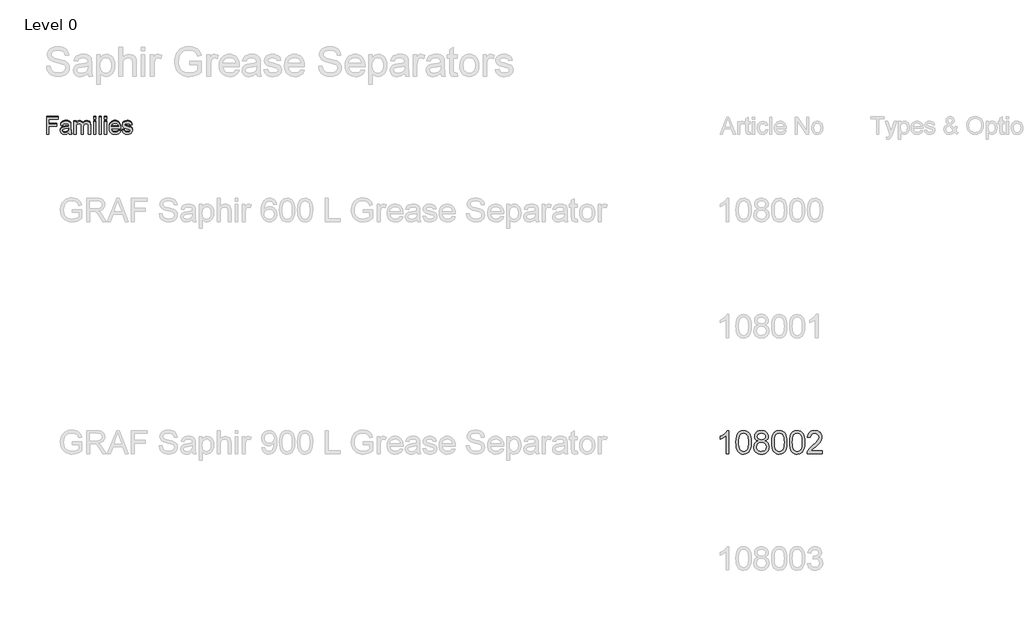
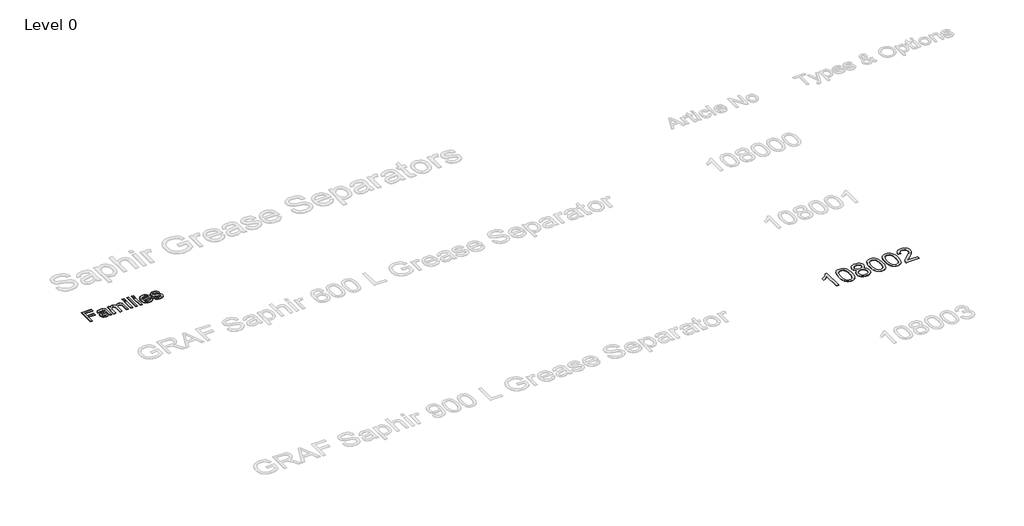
# One storey, part 4 of 15: 3 proxies.
"""IFC4 building model written with IfcOpenShell, lengths in millimetres."""

from ifc_helpers import new_model, si_unit, origin, origin_with_axes, place, context, project, spatial, polyline, outline, extrude, element, save

model = new_model("IFC4")

# Units and contexts
model_context = context("Model", 3, world=origin())
ifc_project = project(units=[si_unit("LENGTHUNIT", "METRE", prefix="MILLI")], contexts=[model_context])

# Site, building, storey
site = spatial("IfcSite", under=ifc_project)
building = spatial("IfcBuilding", under=site)
storey = spatial("IfcBuildingStorey", under=building, Name="Level 0", Elevation=0.0)

# Proxies
placement = place(None, origin())
element("IfcBuildingElementProxy", 1, Name="300mm Arial", ObjectType="300mm Arial", at=placement, inside=storey, context=model_context, shape_type="SweptSolid", body=[
    extrude(outline(polyline([(-15382.9152593, 11653.8274553), (-15382.9152593, 11949.2120707), (-15184.4537209, 11949.2120707), (-15184.4537209, 11912.2889938), (-15345.9921824, 11912.2889938), (-15345.9921824, 11824.5966861), (-15207.530644, 11824.5966861), (-15207.530644, 11787.6736092), (-15345.9921824, 11787.6736092), (-15345.9921824, 11653.8274553), (-15382.9152593, 11653.8274553)])), origin_with_axes(), (0.0, 0.0, 1.0), 10.0),
    extrude(outline(polyline([(-14999.8383363, 11681.519763), (-15017.4795622, 11666.3935611), (-15035.6436247, 11656.4957246), (-15054.7451872, 11651.0329842), (-15075.1989132, 11649.2120707), (-15106.0552834, 11653.5930803), (-15128.8167017, 11666.7361092), (-15142.8521584, 11686.6940419), (-15147.530644, 11711.519763), (-15145.763817, 11726.8262534), (-15140.4633363, 11740.7264938), (-15132.2872545, 11752.6255323), (-15121.8936247, 11761.9284169), (-15096.0402593, 11774.0438015), (-15064.093144, 11779.5966861), (-15026.3407401, 11785.4380323), (-15000.0546824, 11792.2889938), (-14999.8383363, 11800.5101476), (-15002.3804036, 11816.988513), (-15010.0066055, 11827.769763), (-15027.061894, 11835.7745707), (-15050.8239132, 11838.44284), (-15072.8191055, 11836.6669986), (-15088.1796824, 11831.3394746), (-15098.654442, 11821.4867101), (-15105.9921824, 11806.1351476), (-15142.9152593, 11810.7505323), (-15136.5060045, 11830.94284), (-15126.9417017, 11846.8082246), (-15113.3299228, 11858.941638), (-15094.7782401, 11867.9380323), (-15072.0889372, 11873.5089457), (-15046.0642978, 11875.3659169), (-15021.1033603, 11873.7252919), (-15001.3167017, 11868.8034169), (-14986.3978315, 11861.4025755), (-14976.0402593, 11852.3250515), (-14969.171269, 11841.1020948), (-14964.718144, 11827.2649553), (-14962.9152593, 11794.957263), (-14962.9152593, 11749.019763), (-14961.0402593, 11684.8731284), (-14953.6844901, 11653.8274553), (-14990.607567, 11653.8274553), (-14999.8383363, 11681.519763)]), holes=[polyline([(-14999.8383363, 11755.3659169), (-15059.405644, 11744.0438015), (-15091.1724709, 11738.0582246), (-15105.5594901, 11728.3226476), (-15110.607567, 11714.1159169), (-15107.858168, 11703.1363496), (-15099.6099709, 11694.1399553), (-15086.0432642, 11688.1363496), (-15067.3383363, 11686.1351476), (-15047.5066055, 11688.3436813), (-15029.982567, 11694.9692823), (-15015.7758363, 11704.7319025), (-15005.8960286, 11716.3514938), (-15001.515019, 11728.3226476), (-15000.0546824, 11744.9091861), (-14999.8383363, 11755.3659169)])]), origin_with_axes(), (0.0, 0.0, 1.0), 10.0),
    extrude(outline(polyline([(-14912.1460286, 11653.8274553), (-14912.1460286, 11870.7505323), (-14875.2229517, 11870.7505323), (-14875.2229517, 11835.0534169), (-14864.1171824, 11851.4506525), (-14849.8383363, 11864.2962053), (-14832.873192, 11872.598489), (-14813.7085286, 11875.3659169), (-14793.1736728, 11872.5444025), (-14776.7133363, 11864.0798592), (-14764.4176632, 11850.5311813), (-14756.3767978, 11832.457263), (-14742.9182642, 11851.2297991), (-14727.5667017, 11864.6387534), (-14710.3221103, 11872.684126), (-14691.1844901, 11875.3659169), (-14663.4290815, 11870.9037775), (-14642.9032401, 11857.5173592), (-14630.2199468, 11834.8460851), (-14625.9921824, 11802.5293784), (-14625.9921824, 11653.8274553), (-14662.9152593, 11653.8274553), (-14662.9152593, 11786.6639938), (-14666.3407401, 11817.4933207), (-14671.154442, 11825.9939217), (-14678.7445863, 11832.6736092), (-14688.5072065, 11837.0005323), (-14699.8383363, 11838.44284), (-14719.8413411, 11834.7469265), (-14736.1484324, 11823.6591861), (-14746.9927834, 11804.4224073), (-14750.607567, 11776.2793784), (-14750.607567, 11653.8274553), (-14787.530644, 11653.8274553), (-14787.530644, 11790.7745707), (-14789.6670622, 11811.6519746), (-14796.076317, 11826.5438015), (-14807.3533603, 11835.4680803), (-14824.093144, 11838.44284), (-14838.3179036, 11836.4596669), (-14851.4248747, 11830.5101476), (-14862.2421824, 11820.738513), (-14869.5979517, 11807.2889938), (-14873.8167017, 11788.629138), (-14875.2229517, 11763.2264938), (-14875.2229517, 11653.8274553), (-14912.1460286, 11653.8274553)])), origin_with_axes(), (0.0, 0.0, 1.0), 10.0),
    extrude(outline(polyline([(-14570.607567, 11912.2889938), (-14570.607567, 11949.2120707), (-14533.6844901, 11949.2120707), (-14533.6844901, 11912.2889938), (-14570.607567, 11912.2889938)])), origin_with_axes(), (0.0, 0.0, 1.0), 10.0),
    extrude(outline(polyline([(-14570.607567, 11653.8274553), (-14570.607567, 11870.7505323), (-14533.6844901, 11870.7505323), (-14533.6844901, 11653.8274553), (-14570.607567, 11653.8274553)])), origin_with_axes(), (0.0, 0.0, 1.0), 10.0),
    extrude(outline(polyline([(-14478.2998747, 11653.8274553), (-14478.2998747, 11949.2120707), (-14441.3767978, 11949.2120707), (-14441.3767978, 11653.8274553), (-14478.2998747, 11653.8274553)])), origin_with_axes(), (0.0, 0.0, 1.0), 10.0),
    extrude(outline(polyline([(-14385.9921824, 11912.2889938), (-14385.9921824, 11949.2120707), (-14349.0691055, 11949.2120707), (-14349.0691055, 11912.2889938), (-14385.9921824, 11912.2889938)])), origin_with_axes(), (0.0, 0.0, 1.0), 10.0),
    extrude(outline(polyline([(-14385.9921824, 11653.8274553), (-14385.9921824, 11870.7505323), (-14349.0691055, 11870.7505323), (-14349.0691055, 11653.8274553), (-14385.9921824, 11653.8274553)])), origin_with_axes(), (0.0, 0.0, 1.0), 10.0),
    extrude(outline(polyline([(-14141.8094901, 11718.44284), (-14105.607567, 11713.8274553), (-14118.6514372, 11686.5498111), (-14139.4657401, 11666.1591861), (-14167.5817257, 11653.4488496), (-14202.530644, 11649.2120707), (-14225.4408002, 11651.039745), (-14245.8539613, 11656.5227678), (-14263.7701271, 11665.6611392), (-14279.1892978, 11678.4548592), (-14291.5886367, 11694.547858), (-14300.4453074, 11713.5840659), (-14305.7593098, 11735.563483), (-14307.530644, 11760.4861092), (-14305.741281, 11786.2538375), (-14300.373192, 11808.9656765), (-14291.4263771, 11828.621626), (-14278.9008363, 11845.2216861), (-14263.5222305, 11858.4097871), (-14246.0162209, 11867.8298592), (-14226.3828074, 11873.4819025), (-14204.6219901, 11875.3659169), (-14183.5620442, 11873.4864097), (-14164.5168218, 11867.847888), (-14147.486323, 11858.450352), (-14132.4705478, 11845.2938015), (-14120.213186, 11828.7297991), (-14111.4579276, 11809.1099073), (-14106.2047726, 11786.434126), (-14104.4537209, 11760.7024553), (-14104.670067, 11750.7505323), (-14270.607567, 11750.7505323), (-14264.2163411, 11723.1123111), (-14249.3695863, 11702.7938015), (-14227.9423026, 11690.2998111), (-14201.8094901, 11686.1351476), (-14182.1580478, 11688.0642342), (-14165.607567, 11693.8514938), (-14152.1580478, 11703.8575034), (-14141.8094901, 11718.44284)]), holes=[polyline([(-14270.607567, 11787.6736092), (-14141.3767978, 11787.6736092), (-14146.3707882, 11807.1808207), (-14156.1604517, 11821.1351476), (-14177.686894, 11834.1159169), (-14204.7662209, 11838.44284), (-14229.655043, 11834.9903159), (-14250.2349709, 11824.6327438), (-14264.5408603, 11808.4879121), (-14270.607567, 11787.6736092)])]), origin_with_axes(), (0.0, 0.0, 1.0), 10.0),
    extrude(outline(polyline([(-14081.3767978, 11718.44284), (-14044.4537209, 11723.0582246), (-14038.6304036, 11707.2649553), (-14027.3623747, 11695.6543784), (-14010.577519, 11688.5149553), (-13988.2037209, 11686.1351476), (-13966.1003555, 11688.316638), (-13950.5594901, 11694.8611092), (-13941.3647786, 11704.3442823), (-13938.2998747, 11715.3418784), (-13941.3828074, 11724.7529361), (-13950.6316055, 11731.9284169), (-13988.6364132, 11742.457263), (-14044.2373747, 11760.5221669), (-14058.3088892, 11769.5996909), (-14068.5042017, 11781.6159169), (-14074.6971103, 11795.8046188), (-14076.7614132, 11811.3995707), (-14075.1027593, 11825.7054601), (-14070.1267978, 11838.91159), (-14062.2842497, 11850.4951236), (-14052.0258363, 11859.9332246), (-14028.5522786, 11870.8587053), (-13996.7854517, 11875.3659169), (-13972.7529997, 11873.5540178), (-13951.857567, 11868.1183207), (-13935.0546824, 11859.5906765), (-13923.2998747, 11848.5029361), (-13915.5114132, 11834.0347871), (-13910.607567, 11815.3659169), (-13947.530644, 11810.7505323), (-13952.1911007, 11822.3701236), (-13961.4128555, 11831.1231284), (-13975.2860526, 11836.6129121), (-13993.9008363, 11838.44284), (-14015.1027593, 11836.6940419), (-14029.2373747, 11831.4476476), (-14037.1880959, 11823.8755323), (-14039.8383363, 11815.1495707), (-14035.4392978, 11804.4043784), (-14021.6652593, 11796.25534), (-13989.8623747, 11788.394763), (-13935.6676632, 11771.0149553), (-13921.3527593, 11762.7036573), (-13910.499394, 11751.3274553), (-13903.6574468, 11736.8502919), (-13901.3767978, 11719.2361092), (-13904.0540815, 11701.0269746), (-13912.0859324, 11683.8995707), (-13925.1658603, 11669.1970467), (-13942.9873747, 11658.2625515), (-13964.513817, 11651.4746909), (-13988.7085286, 11649.2120707), (-14025.9380959, 11653.5750515), (-14053.107567, 11666.6639938), (-14071.2445863, 11688.3346669), (-14081.3767978, 11718.44284)])), origin_with_axes(), (0.0, 0.0, 1.0), 10.0),
])
element("IfcBuildingElementProxy", 2, Name="300mm Arial", ObjectType="300mm Arial", at=placement, inside=storey, context=model_context, shape_type="SweptSolid", body=[
    extrude(outline(polyline([(-15382.9152593, 11671.1260199), (-15382.9152593, 11966.5106353), (-15184.4537209, 11966.5106353), (-15184.4537209, 11929.5875583), (-15345.9921824, 11929.5875583), (-15345.9921824, 11841.8952506), (-15207.530644, 11841.8952506), (-15207.530644, 11804.9721737), (-15345.9921824, 11804.9721737), (-15345.9921824, 11671.1260199), (-15382.9152593, 11671.1260199)])), origin_with_axes(), (0.0, 0.0, 1.0), 5.0),
    extrude(outline(polyline([(-14999.8383363, 11698.8183276), (-15017.4795622, 11683.6921256), (-15035.6436247, 11673.7942891), (-15054.7451872, 11668.3315487), (-15075.1989132, 11666.5106353), (-15106.0552834, 11670.8916449), (-15128.8167017, 11684.0346737), (-15142.8521584, 11703.9926064), (-15147.530644, 11728.8183276), (-15145.763817, 11744.1248179), (-15140.4633363, 11758.0250583), (-15132.2872545, 11769.9240968), (-15121.8936247, 11779.2269814), (-15096.0402593, 11791.342366), (-15064.093144, 11796.8952506), (-15026.3407401, 11802.7365968), (-15000.0546824, 11809.5875583), (-14999.8383363, 11817.8087122), (-15002.3804036, 11834.2870776), (-15010.0066055, 11845.0683276), (-15027.061894, 11853.0731353), (-15050.8239132, 11855.7414045), (-15072.8191055, 11853.9655631), (-15088.1796824, 11848.6380391), (-15098.654442, 11838.7852747), (-15105.9921824, 11823.4337122), (-15142.9152593, 11828.0490968), (-15136.5060045, 11848.2414045), (-15126.9417017, 11864.1067891), (-15113.3299228, 11876.2402026), (-15094.7782401, 11885.2365968), (-15072.0889372, 11890.8075103), (-15046.0642978, 11892.6644814), (-15021.1033603, 11891.0238564), (-15001.3167017, 11886.1019814), (-14986.3978315, 11878.7011401), (-14976.0402593, 11869.623616), (-14969.171269, 11858.4006593), (-14964.718144, 11844.5635199), (-14962.9152593, 11812.2558276), (-14962.9152593, 11766.3183276), (-14961.0402593, 11702.1716929), (-14953.6844901, 11671.1260199), (-14990.607567, 11671.1260199), (-14999.8383363, 11698.8183276)]), holes=[polyline([(-14999.8383363, 11772.6644814), (-15059.405644, 11761.342366), (-15091.1724709, 11755.3567891), (-15105.5594901, 11745.6212122), (-15110.607567, 11731.4144814), (-15107.858168, 11720.4349141), (-15099.6099709, 11711.4385199), (-15086.0432642, 11705.4349141), (-15067.3383363, 11703.4337122), (-15047.5066055, 11705.6422458), (-15029.982567, 11712.2678468), (-15015.7758363, 11722.030467), (-15005.8960286, 11733.6500583), (-15001.515019, 11745.6212122), (-15000.0546824, 11762.2077506), (-14999.8383363, 11772.6644814)])]), origin_with_axes(), (0.0, 0.0, 1.0), 5.0),
    extrude(outline(polyline([(-14912.1460286, 11671.1260199), (-14912.1460286, 11888.0490968), (-14875.2229517, 11888.0490968), (-14875.2229517, 11852.3519814), (-14864.1171824, 11868.749217), (-14849.8383363, 11881.5947699), (-14832.873192, 11889.8970535), (-14813.7085286, 11892.6644814), (-14793.1736728, 11889.842967), (-14776.7133363, 11881.3784237), (-14764.4176632, 11867.8297458), (-14756.3767978, 11849.7558276), (-14742.9182642, 11868.5283636), (-14727.5667017, 11881.9373179), (-14710.3221103, 11889.9826905), (-14691.1844901, 11892.6644814), (-14663.4290815, 11888.202342), (-14642.9032401, 11874.8159237), (-14630.2199468, 11852.1446497), (-14625.9921824, 11819.8279429), (-14625.9921824, 11671.1260199), (-14662.9152593, 11671.1260199), (-14662.9152593, 11803.9625583), (-14666.3407401, 11834.7918853), (-14671.154442, 11843.2924862), (-14678.7445863, 11849.9721737), (-14688.5072065, 11854.2990968), (-14699.8383363, 11855.7414045), (-14719.8413411, 11852.045491), (-14736.1484324, 11840.9577506), (-14746.9927834, 11821.7209718), (-14750.607567, 11793.5779429), (-14750.607567, 11671.1260199), (-14787.530644, 11671.1260199), (-14787.530644, 11808.0731353), (-14789.6670622, 11828.9505391), (-14796.076317, 11843.842366), (-14807.3533603, 11852.7666449), (-14824.093144, 11855.7414045), (-14838.3179036, 11853.7582314), (-14851.4248747, 11847.8087122), (-14862.2421824, 11838.0370776), (-14869.5979517, 11824.5875583), (-14873.8167017, 11805.9277026), (-14875.2229517, 11780.5250583), (-14875.2229517, 11671.1260199), (-14912.1460286, 11671.1260199)])), origin_with_axes(), (0.0, 0.0, 1.0), 5.0),
    extrude(outline(polyline([(-14570.607567, 11929.5875583), (-14570.607567, 11966.5106353), (-14533.6844901, 11966.5106353), (-14533.6844901, 11929.5875583), (-14570.607567, 11929.5875583)])), origin_with_axes(), (0.0, 0.0, 1.0), 5.0),
    extrude(outline(polyline([(-14570.607567, 11671.1260199), (-14570.607567, 11888.0490968), (-14533.6844901, 11888.0490968), (-14533.6844901, 11671.1260199), (-14570.607567, 11671.1260199)])), origin_with_axes(), (0.0, 0.0, 1.0), 5.0),
    extrude(outline(polyline([(-14478.2998747, 11671.1260199), (-14478.2998747, 11966.5106353), (-14441.3767978, 11966.5106353), (-14441.3767978, 11671.1260199), (-14478.2998747, 11671.1260199)])), origin_with_axes(), (0.0, 0.0, 1.0), 5.0),
    extrude(outline(polyline([(-14385.9921824, 11929.5875583), (-14385.9921824, 11966.5106353), (-14349.0691055, 11966.5106353), (-14349.0691055, 11929.5875583), (-14385.9921824, 11929.5875583)])), origin_with_axes(), (0.0, 0.0, 1.0), 5.0),
    extrude(outline(polyline([(-14385.9921824, 11671.1260199), (-14385.9921824, 11888.0490968), (-14349.0691055, 11888.0490968), (-14349.0691055, 11671.1260199), (-14385.9921824, 11671.1260199)])), origin_with_axes(), (0.0, 0.0, 1.0), 5.0),
    extrude(outline(polyline([(-14141.8094901, 11735.7414045), (-14105.607567, 11731.1260199), (-14118.6514372, 11703.8483756), (-14139.4657401, 11683.4577506), (-14167.5817257, 11670.7474141), (-14202.530644, 11666.5106353), (-14225.4408002, 11668.3383095), (-14245.8539613, 11673.8213324), (-14263.7701271, 11682.9597038), (-14279.1892978, 11695.7534237), (-14291.5886367, 11711.8464225), (-14300.4453074, 11730.8826304), (-14305.7593098, 11752.8620475), (-14307.530644, 11777.7846737), (-14305.741281, 11803.5524021), (-14300.373192, 11826.264241), (-14291.4263771, 11845.9201905), (-14278.9008363, 11862.5202506), (-14263.5222305, 11875.7083516), (-14246.0162209, 11885.1284237), (-14226.3828074, 11890.780467), (-14204.6219901, 11892.6644814), (-14183.5620442, 11890.7849742), (-14164.5168218, 11885.1464526), (-14147.486323, 11875.7489165), (-14132.4705478, 11862.592366), (-14120.213186, 11846.0283636), (-14111.4579276, 11826.4084718), (-14106.2047726, 11803.7326905), (-14104.4537209, 11778.0010199), (-14104.670067, 11768.0490968), (-14270.607567, 11768.0490968), (-14264.2163411, 11740.4108756), (-14249.3695863, 11720.092366), (-14227.9423026, 11707.5983756), (-14201.8094901, 11703.4337122), (-14182.1580478, 11705.3627987), (-14165.607567, 11711.1500583), (-14152.1580478, 11721.1560679), (-14141.8094901, 11735.7414045)]), holes=[polyline([(-14270.607567, 11804.9721737), (-14141.3767978, 11804.9721737), (-14146.3707882, 11824.4793853), (-14156.1604517, 11838.4337122), (-14177.686894, 11851.4144814), (-14204.7662209, 11855.7414045), (-14229.655043, 11852.2888804), (-14250.2349709, 11841.9313083), (-14264.5408603, 11825.7864766), (-14270.607567, 11804.9721737)])]), origin_with_axes(), (0.0, 0.0, 1.0), 5.0),
    extrude(outline(polyline([(-14081.3767978, 11735.7414045), (-14044.4537209, 11740.3567891), (-14038.6304036, 11724.5635199), (-14027.3623747, 11712.9529429), (-14010.577519, 11705.8135199), (-13988.2037209, 11703.4337122), (-13966.1003555, 11705.6152026), (-13950.5594901, 11712.1596737), (-13941.3647786, 11721.6428468), (-13938.2998747, 11732.6404429), (-13941.3828074, 11742.0515006), (-13950.6316055, 11749.2269814), (-13988.6364132, 11759.7558276), (-14044.2373747, 11777.8207314), (-14058.3088892, 11786.8982554), (-14068.5042017, 11798.9144814), (-14074.6971103, 11813.1031833), (-14076.7614132, 11828.6981353), (-14075.1027593, 11843.0040247), (-14070.1267978, 11856.2101545), (-14062.2842497, 11867.7936881), (-14052.0258363, 11877.2317891), (-14028.5522786, 11888.1572699), (-13996.7854517, 11892.6644814), (-13972.7529997, 11890.8525824), (-13951.857567, 11885.4168853), (-13935.0546824, 11876.889241), (-13923.2998747, 11865.8015006), (-13915.5114132, 11851.3333516), (-13910.607567, 11832.6644814), (-13947.530644, 11828.0490968), (-13952.1911007, 11839.6686881), (-13961.4128555, 11848.4216929), (-13975.2860526, 11853.9114766), (-13993.9008363, 11855.7414045), (-14015.1027593, 11853.9926064), (-14029.2373747, 11848.7462122), (-14037.1880959, 11841.1740968), (-14039.8383363, 11832.4481353), (-14035.4392978, 11821.7029429), (-14021.6652593, 11813.5539045), (-13989.8623747, 11805.6933276), (-13935.6676632, 11788.3135199), (-13921.3527593, 11780.0022218), (-13910.499394, 11768.6260199), (-13903.6574468, 11754.1488564), (-13901.3767978, 11736.5346737), (-13904.0540815, 11718.3255391), (-13912.0859324, 11701.1981353), (-13925.1658603, 11686.4956112), (-13942.9873747, 11675.561116), (-13964.513817, 11668.7732554), (-13988.7085286, 11666.5106353), (-14025.9380959, 11670.873616), (-14053.107567, 11683.9625583), (-14071.2445863, 11705.6332314), (-14081.3767978, 11735.7414045)])), origin_with_axes(), (0.0, 0.0, 1.0), 5.0),
])
element("IfcBuildingElementProxy", 3, Name="400mm Arial", ObjectType="400mm Arial", at=placement, inside=storey, context=model_context, shape_type="SweptSolid", body=[
    extrude(outline(polyline([(-3629.592891, 6149.0232018), (-3679.821046, 6149.0232018), (-3679.821046, 6462.1643561), (-3700.7903198, 6445.2049961), (-3727.4004508, 6428.2701616), (-3780.2773562, 6402.9108294), (-3780.2773562, 6450.3921323), (-3740.8281436, 6471.8519153), (-3706.6519062, 6497.3829258), (-3679.7106814, 6524.532617), (-3661.9665065, 6550.8484424), (-3629.592891, 6550.8484424), (-3629.592891, 6149.0232018)])), origin_with_axes(), (0.0, 0.0, 1.0), 5.0),
    extrude(outline(polyline([(-3510.3010227, 6346.6984606), (-3506.60994, 6411.0164961), (-3495.5366919, 6462.3115089), (-3477.1916431, 6501.3683141), (-3465.3335801, 6516.6016944), (-3451.6851581, 6528.9717264), (-3436.2003918, 6538.5427897), (-3418.8332959, 6545.3792634), (-3378.4521156, 6550.8484424), (-3347.5009771, 6547.6110809), (-3319.7872001, 6537.8989962), (-3296.6106344, 6522.0923331), (-3279.2711297, 6500.5712364), (-3266.1745307, 6473.519647), (-3255.726682, 6441.121506), (-3248.8840769, 6399.9800362), (-3246.6032085, 6346.6984606), (-3250.257503, 6282.7483071), (-3261.2203865, 6231.5759215), (-3279.4550707, 6192.4823282), (-3291.2855425, 6177.2029627), (-3304.9247675, 6164.7685512), (-3320.4279279, 6155.1331086), (-3337.8502061, 6148.2506496), (-3378.4521156, 6142.7446824), (-3406.1168416, 6145.1359154), (-3430.642308, 6152.3096143), (-3452.0285146, 6164.2657792), (-3470.2754616, 6181.0044099), (-3487.7866446, 6211.262704), (-3500.2946324, 6248.9644772), (-3507.7994251, 6294.1097294), (-3510.3010227, 6346.6984606)]), holes=[polyline([(-3460.0728676, 6346.7965624), (-3458.6013396, 6303.1320353), (-3454.1867557, 6267.7877726), (-3446.8291158, 6240.7637744), (-3436.5284199, 6222.0600406), (-3424.069483, 6209.3343892), (-3410.23712, 6200.2446383), (-3395.0313308, 6194.7907877), (-3378.4521156, 6192.9728375), (-3361.8729003, 6194.7969191), (-3346.6671112, 6200.2691637), (-3332.8347482, 6209.3895715), (-3320.3758113, 6222.1581425), (-3310.0751154, 6240.8925331), (-3302.7174755, 6267.9103999), (-3298.3028916, 6303.2117431), (-3296.8313636, 6346.7965624), (-3298.2538406, 6389.305327), (-3302.5212718, 6424.0272559), (-3309.633657, 6450.9623494), (-3319.5909964, 6470.1106072), (-3331.8414668, 6483.4585923), (-3345.8332454, 6492.9928673), (-3361.566332, 6498.7134323), (-3379.0407268, 6500.6202873), (-3395.5341029, 6498.9402929), (-3410.4823746, 6493.9003096), (-3423.885542, 6485.5003373), (-3435.743605, 6473.7403762), (-3446.3876574, 6452.8937298), (-3453.9905519, 6424.7875454), (-3458.5522887, 6389.4218229), (-3460.0728676, 6346.7965624)])]), origin_with_axes(), (0.0, 0.0, 1.0), 5.0),
    extrude(outline(polyline([(-3129.4695813, 6370.3410101), (-3156.3617551, 6383.5847619), (-3175.2341015, 6401.5374033), (-3186.3809259, 6423.8310522), (-3190.0965341, 6450.0978267), (-3188.0731831, 6470.5827224), (-3182.0031302, 6489.3630983), (-3171.8863753, 6506.4389542), (-3157.7229185, 6521.8102903), (-3140.1933414, 6534.5144818), (-3119.9782258, 6543.5889044), (-3097.0775716, 6549.0335579), (-3071.4913788, 6550.8484424), (-3045.7825587, 6548.9906383), (-3022.7102263, 6543.4172261), (-3002.2743814, 6534.1282057), (-2984.4750242, 6521.1235772), (-2970.05405, 6505.4518042), (-2959.7533542, 6488.1613504), (-2953.5729366, 6469.2522159), (-2951.5127975, 6448.7244006), (-2955.1793547, 6423.3037547), (-2966.1790263, 6401.3902505), (-2984.6344398, 6383.5479737), (-3010.6682223, 6370.3410101), (-2979.753872, 6354.4117197), (-2957.2517566, 6330.9531112), (-2943.5297582, 6301.0933559), (-2938.9557587, 6265.9606254), (-2941.2243643, 6240.9078615), (-2948.0301812, 6217.9397623), (-2959.3732094, 6197.0563277), (-2975.2534489, 6178.2575577), (-2994.8370338, 6162.7206748), (-3017.2900982, 6151.6229013), (-3042.6126422, 6144.9642371), (-3070.8046658, 6142.7446824), (-3098.9966893, 6144.9734342), (-3124.3192333, 6151.6596895), (-3146.7722978, 6162.8034482), (-3166.3558826, 6178.4047105), (-3182.2361221, 6197.3353048), (-3193.5791503, 6218.4670598), (-3200.3849672, 6241.7999753), (-3202.6535728, 6267.3340515), (-3197.8956324, 6303.8279454), (-3183.621811, 6333.8471162), (-3160.5678726, 6356.3614943), (-3129.4695813, 6370.3410101)]), holes=[polyline([(-3139.868379, 6448.6262987), (-3135.4170068, 6426.7005318), (-3122.0628904, 6409.1893488), (-3100.1984372, 6397.7114306), (-3070.2160546, 6393.8854578), (-3040.9326478, 6397.6869051), (-3019.3992883, 6409.0912469), (-3006.1555365, 6426.0138187), (-3001.7409525, 6446.3699558), (-3006.3026893, 6467.498645), (-3019.9878995, 6484.9730398), (-3041.8155645, 6496.7084755), (-3070.8046658, 6500.6202873), (-3099.977708, 6496.7943146), (-3121.7685848, 6485.3163963), (-3135.3434305, 6468.4919264), (-3139.868379, 6448.6262987)]), polyline([(-3152.4254178, 6269.099885), (-3150.3284904, 6249.8841822), (-3144.0377083, 6231.2816159), (-3132.4249, 6215.05802), (-3114.361894, 6202.9792278), (-3092.7304327, 6195.4744351), (-3070.4122583, 6192.9728375), (-3036.2237582, 6198.23355), (-3022.3300815, 6204.8094407), (-3010.5701204, 6214.0156876), (-2994.5304654, 6237.9157546), (-2989.1839138, 6267.5302552), (-2994.7021437, 6297.6475279), (-3011.2568335, 6322.0748924), (-3023.3356257, 6331.5171969), (-3037.4990825, 6338.2617001), (-3072.07999, 6343.6573027), (-3105.7902435, 6338.3352765), (-3119.5275703, 6331.6827438), (-3131.1863639, 6322.3691979), (-3147.1156543, 6298.4078173), (-3152.4254178, 6269.099885)])]), origin_with_axes(), (0.0, 0.0, 1.0), 5.0),
    extrude(outline(polyline([(-2895.006123, 6346.6984606), (-2891.3150403, 6411.0164961), (-2880.2417923, 6462.3115089), (-2861.8967434, 6501.3683141), (-2850.0386805, 6516.6016944), (-2836.3902584, 6528.9717264), (-2820.9054921, 6538.5427897), (-2803.5383963, 6545.3792634), (-2763.1572159, 6550.8484424), (-2732.2060774, 6547.6110809), (-2704.4923004, 6537.8989962), (-2681.3157347, 6522.0923331), (-2663.97623, 6500.5712364), (-2650.879631, 6473.519647), (-2640.4317823, 6441.121506), (-2633.5891772, 6399.9800362), (-2631.3083089, 6346.6984606), (-2634.9626033, 6282.7483071), (-2645.9254868, 6231.5759215), (-2664.160171, 6192.4823282), (-2675.9906429, 6177.2029627), (-2689.6298678, 6164.7685512), (-2705.1330282, 6155.1331086), (-2722.5553064, 6148.2506496), (-2763.1572159, 6142.7446824), (-2790.821942, 6145.1359154), (-2815.3474083, 6152.3096143), (-2836.733615, 6164.2657792), (-2854.9805619, 6181.0044099), (-2872.4917449, 6211.262704), (-2884.9997327, 6248.9644772), (-2892.5045254, 6294.1097294), (-2895.006123, 6346.6984606)]), holes=[polyline([(-2844.7779679, 6346.7965624), (-2843.3064399, 6303.1320353), (-2838.891856, 6267.7877726), (-2831.5342161, 6240.7637744), (-2821.2335202, 6222.0600406), (-2808.7745833, 6209.3343892), (-2794.9422203, 6200.2446383), (-2779.7364312, 6194.7907877), (-2763.1572159, 6192.9728375), (-2746.5780007, 6194.7969191), (-2731.3722115, 6200.2691637), (-2717.5398485, 6209.3895715), (-2705.0809116, 6222.1581425), (-2694.7802158, 6240.8925331), (-2687.4225759, 6267.9103999), (-2683.0079919, 6303.2117431), (-2681.5364639, 6346.7965624), (-2682.958941, 6389.305327), (-2687.2263721, 6424.0272559), (-2694.3387574, 6450.9623494), (-2704.2960967, 6470.1106072), (-2716.5465671, 6483.4585923), (-2730.5383457, 6492.9928673), (-2746.2714324, 6498.7134323), (-2763.7458271, 6500.6202873), (-2780.2392032, 6498.9402929), (-2795.187475, 6493.9003096), (-2808.5906423, 6485.5003373), (-2820.4487053, 6473.7403762), (-2831.0927577, 6452.8937298), (-2838.6956523, 6424.7875454), (-2843.257389, 6389.4218229), (-2844.7779679, 6346.7965624)])]), origin_with_axes(), (0.0, 0.0, 1.0), 5.0),
    extrude(outline(polyline([(-2587.3586732, 6346.6984606), (-2583.6675905, 6411.0164961), (-2572.5943424, 6462.3115089), (-2554.2492936, 6501.3683141), (-2542.3912306, 6516.6016944), (-2528.7428086, 6528.9717264), (-2513.2580423, 6538.5427897), (-2495.8909464, 6545.3792634), (-2455.5097661, 6550.8484424), (-2424.5586276, 6547.6110809), (-2396.8448506, 6537.8989962), (-2373.6682849, 6522.0923331), (-2356.3287802, 6500.5712364), (-2343.2321812, 6473.519647), (-2332.7843325, 6441.121506), (-2325.9417274, 6399.9800362), (-2323.660859, 6346.6984606), (-2327.3151535, 6282.7483071), (-2338.278037, 6231.5759215), (-2356.5127212, 6192.4823282), (-2368.343193, 6177.2029627), (-2381.982418, 6164.7685512), (-2397.4855784, 6155.1331086), (-2414.9078566, 6148.2506496), (-2455.5097661, 6142.7446824), (-2483.1744921, 6145.1359154), (-2507.6999585, 6152.3096143), (-2529.0861651, 6164.2657792), (-2547.3331121, 6181.0044099), (-2564.8442951, 6211.262704), (-2577.3522829, 6248.9644772), (-2584.8570756, 6294.1097294), (-2587.3586732, 6346.6984606)]), holes=[polyline([(-2537.1305181, 6346.7965624), (-2535.6589901, 6303.1320353), (-2531.2444062, 6267.7877726), (-2523.8867663, 6240.7637744), (-2513.5860704, 6222.0600406), (-2501.1271335, 6209.3343892), (-2487.2947705, 6200.2446383), (-2472.0889813, 6194.7907877), (-2455.5097661, 6192.9728375), (-2438.9305508, 6194.7969191), (-2423.7247617, 6200.2691637), (-2409.8923987, 6209.3895715), (-2397.4334618, 6222.1581425), (-2387.1327659, 6240.8925331), (-2379.775126, 6267.9103999), (-2375.3605421, 6303.2117431), (-2373.8890141, 6346.7965624), (-2375.3114911, 6389.305327), (-2379.5789223, 6424.0272559), (-2386.6913075, 6450.9623494), (-2396.6486469, 6470.1106072), (-2408.8991173, 6483.4585923), (-2422.8908959, 6492.9928673), (-2438.6239825, 6498.7134323), (-2456.0983773, 6500.6202873), (-2472.5917534, 6498.9402929), (-2487.5400251, 6493.9003096), (-2500.9431925, 6485.5003373), (-2512.8012555, 6473.7403762), (-2523.4453079, 6452.8937298), (-2531.0482024, 6424.7875454), (-2535.6099392, 6389.4218229), (-2537.1305181, 6346.7965624)])]), origin_with_axes(), (0.0, 0.0, 1.0), 5.0),
    extrude(outline(polyline([(-2022.2919286, 6199.2513569), (-2022.2919286, 6149.0232018), (-2285.9897427, 6149.0232018), (-2284.8860967, 6166.7060631), (-2280.5941401, 6183.6531603), (-2268.1965169, 6210.7170124), (-2250.0354091, 6236.9715241), (-2223.7808973, 6264.4523092), (-2187.1030624, 6295.1949812), (-2132.9140445, 6343.3384717), (-2100.4300644, 6378.8758724), (-2084.2064684, 6407.7178208), (-2078.798603, 6435.7749543), (-2083.9121628, 6460.9258201), (-2099.252842, 6481.8337801), (-2122.8340779, 6495.9236605), (-2152.6693077, 6500.6202873), (-2184.0005909, 6496.0340251), (-2208.3421163, 6482.2752385), (-2224.0506775, 6460.423048), (-2229.4830683, 6431.5565741), (-2279.7112233, 6437.8350935), (-2275.3916756, 6463.7646428), (-2267.5343293, 6486.4200423), (-2256.1391845, 6505.8012921), (-2241.2062412, 6521.9083921), (-2223.0788559, 6534.5696641), (-2202.1003851, 6543.6134298), (-2178.2708288, 6549.0396893), (-2151.5901871, 6550.8484424), (-2124.6704222, 6548.8373542), (-2100.7121072, 6542.8040895), (-2079.7152423, 6532.7486483), (-2061.6798275, 6518.6710306), (-2047.194474, 6501.6135687), (-2036.8477929, 6482.618595), (-2030.6397842, 6461.6861095), (-2028.570448, 6438.8161122), (-2030.8022654, 6414.7934179), (-2037.4977177, 6391.1876565), (-2049.3803062, 6367.177225), (-2067.173532, 6341.9405201), (-2095.5372338, 6311.8109847), (-2139.1312502, 6273.1220615), (-2196.913249, 6224.8068928), (-2219.5747799, 6199.2513569), (-2022.2919286, 6199.2513569)])), origin_with_axes(), (0.0, 0.0, 1.0), 5.0),
])

save(model, "model.ifc")
